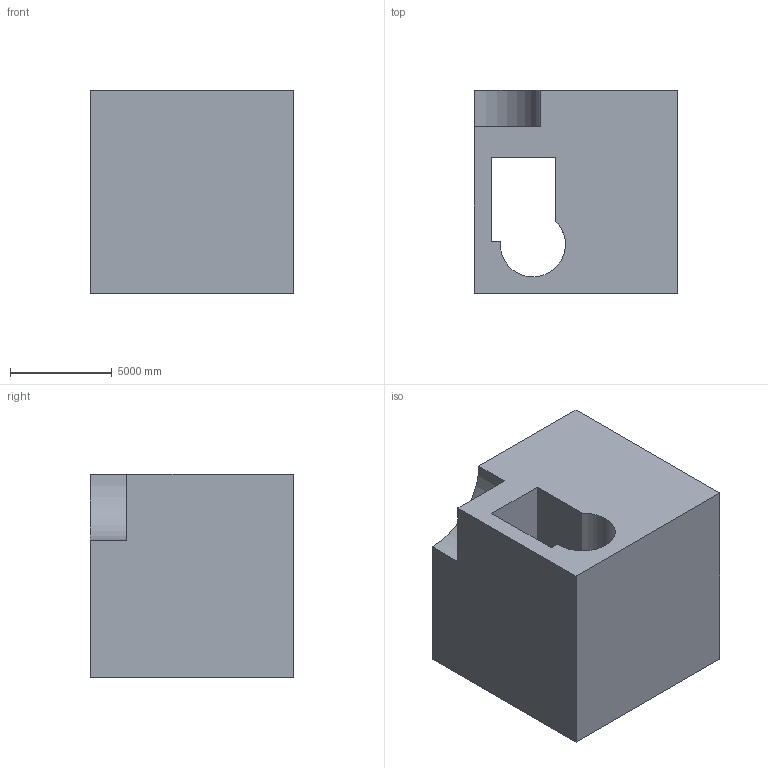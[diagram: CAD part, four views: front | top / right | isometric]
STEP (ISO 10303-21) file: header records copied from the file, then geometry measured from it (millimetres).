
FILE_DESCRIPTION (( 'STEP AP203' ), '1' );
FILE_NAME ('1343.STEP', '2022-08-18T13:57:15', ( 'user' ), ( '' ), 'SwSTEP 2.0', 'SolidWorks 2021', '' );
FILE_SCHEMA (( 'CONFIG_CONTROL_DESIGN' ));
Length unit declared in the file: centimetre
Products named in the file (1): 1343
Bounding box: 10000 x 10000 x 10000 mm (x, y, z)
Volume: 805133052349.6 mm3; surface area: 735373860.4 mm2
Topology: 1 solids, 1 shells, 20 faces, 54 edges, 36 vertices
Faces by surface type: plane 13, cylinder 7
Entity records: 714 total; most frequent: DIRECTION 111, CARTESIAN_POINT 111, ORIENTED_EDGE 108, EDGE_CURVE 54, VECTOR 39, LINE 39, VERTEX_POINT 36, AXIS2_PLACEMENT_3D 36
